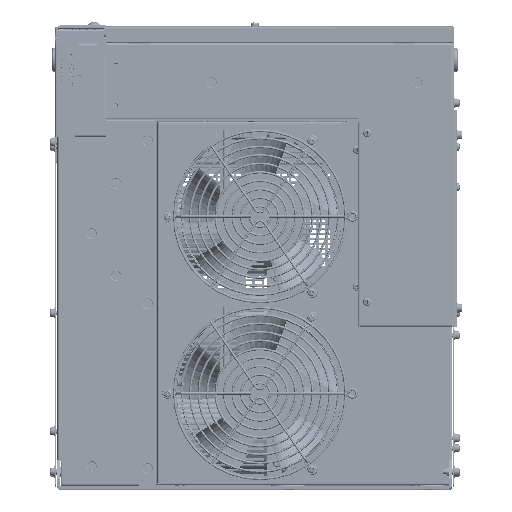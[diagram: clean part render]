
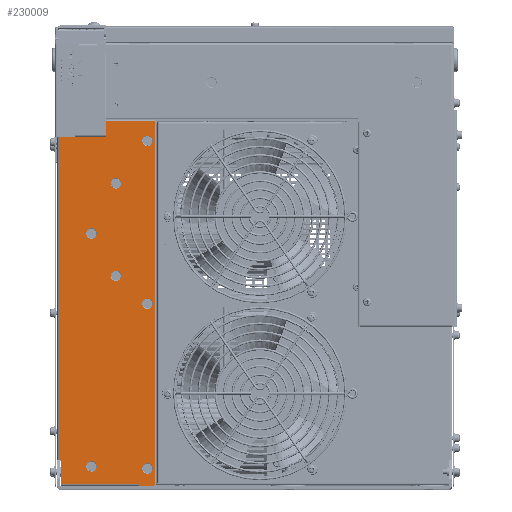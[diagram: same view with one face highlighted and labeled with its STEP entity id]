
A CAD part, top view. The second image highlights one B-rep face of the part: STEP entity #230009.
In plain terms, the highlighted planar face has unit normal (0, 0, 1).
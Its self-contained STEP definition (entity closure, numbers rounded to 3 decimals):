
#228107=CARTESIAN_POINT('',(-94.,304.8,339.5));
#228108=DIRECTION('',(0.,0.,-1.));
#228109=DIRECTION('',(-1.,0.,0.));
#228110=AXIS2_PLACEMENT_3D('',#228107,#228108,#228109);
#228115=CARTESIAN_POINT('',(-94.,304.8,339.5));
#228116=DIRECTION('',(0.,0.,-1.));
#228117=DIRECTION('',(1.,0.,0.));
#228118=AXIS2_PLACEMENT_3D('',#228115,#228116,#228117);
#228123=CARTESIAN_POINT('',(-121.6,186.5,339.5));
#228124=DIRECTION('',(0.,0.,-1.));
#228125=DIRECTION('',(-1.,0.,0.));
#228126=AXIS2_PLACEMENT_3D('',#228123,#228124,#228125);
#228131=CARTESIAN_POINT('',(-121.6,186.5,339.5));
#228132=DIRECTION('',(0.,0.,-1.));
#228133=DIRECTION('',(1.,0.,0.));
#228134=AXIS2_PLACEMENT_3D('',#228131,#228132,#228133);
#228139=CARTESIAN_POINT('',(-94.,17.5,339.5));
#228140=DIRECTION('',(0.,0.,-1.));
#228141=DIRECTION('',(-1.,0.,0.));
#228142=AXIS2_PLACEMENT_3D('',#228139,#228140,#228141);
#228147=CARTESIAN_POINT('',(-94.,17.5,339.5));
#228148=DIRECTION('',(0.,0.,-1.));
#228149=DIRECTION('',(1.,0.,0.));
#228150=AXIS2_PLACEMENT_3D('',#228147,#228148,#228149);
#228155=CARTESIAN_POINT('',(-94.,162.,339.5));
#228156=DIRECTION('',(0.,0.,-1.));
#228157=DIRECTION('',(-1.,0.,0.));
#228158=AXIS2_PLACEMENT_3D('',#228155,#228156,#228157);
#228163=CARTESIAN_POINT('',(-94.,162.,339.5));
#228164=DIRECTION('',(0.,0.,-1.));
#228165=DIRECTION('',(1.,0.,0.));
#228166=AXIS2_PLACEMENT_3D('',#228163,#228164,#228165);
#228171=CARTESIAN_POINT('',(-121.6,267.5,339.5));
#228172=DIRECTION('',(0.,0.,-1.));
#228173=DIRECTION('',(-1.,0.,0.));
#228174=AXIS2_PLACEMENT_3D('',#228171,#228172,#228173);
#228179=CARTESIAN_POINT('',(-121.6,267.5,339.5));
#228180=DIRECTION('',(0.,0.,-1.));
#228181=DIRECTION('',(1.,0.,0.));
#228182=AXIS2_PLACEMENT_3D('',#228179,#228180,#228181);
#228187=CARTESIAN_POINT('',(-143.,223.5,339.5));
#228188=DIRECTION('',(0.,0.,-1.));
#228189=DIRECTION('',(-1.,0.,0.));
#228190=AXIS2_PLACEMENT_3D('',#228187,#228188,#228189);
#228195=CARTESIAN_POINT('',(-143.,223.5,339.5));
#228196=DIRECTION('',(0.,0.,-1.));
#228197=DIRECTION('',(1.,0.,0.));
#228198=AXIS2_PLACEMENT_3D('',#228195,#228196,#228197);
#228203=CARTESIAN_POINT('',(-143.,19.5,339.5));
#228204=DIRECTION('',(0.,0.,-1.));
#228205=DIRECTION('',(-1.,0.,0.));
#228206=AXIS2_PLACEMENT_3D('',#228203,#228204,#228205);
#228211=CARTESIAN_POINT('',(-143.,19.5,339.5));
#228212=DIRECTION('',(0.,0.,-1.));
#228213=DIRECTION('',(1.,0.,0.));
#228214=AXIS2_PLACEMENT_3D('',#228211,#228212,#228213);
#228219=CARTESIAN_POINT('',(-89.5,4.5,339.5));
#228220=DIRECTION('',(0.,0.,1.));
#228221=DIRECTION('',(0.,-1.,0.));
#228222=AXIS2_PLACEMENT_3D('',#228219,#228220,#228221);
#228227=DIRECTION('',(1.,0.,0.));
#228228=VECTOR('',#228227,11.7);
#228229=CARTESIAN_POINT('',(-101.2,2.5,339.5));
#228230=LINE('',#228229,#228228);
#228234=DIRECTION('',(0.,-1.,0.));
#228235=VECTOR('',#228234,1.7);
#228236=CARTESIAN_POINT('',(-101.2,4.2,339.5));
#228237=LINE('',#228236,#228235);
#228241=DIRECTION('',(-1.,0.,0.));
#228242=VECTOR('',#228241,1.7);
#228243=CARTESIAN_POINT('',(-168.5,23.2,339.5));
#228244=LINE('',#228243,#228242);
#228248=DIRECTION('',(0.,1.,0.));
#228249=VECTOR('',#228248,2.);
#228250=CARTESIAN_POINT('',(-170.2,23.2,339.5));
#228251=LINE('',#228250,#228249);
#228255=DIRECTION('',(1.,0.,0.));
#228256=VECTOR('',#228255,1.1);
#228257=CARTESIAN_POINT('',(-171.3,25.2,339.5));
#228258=LINE('',#228257,#228256);
#228262=DIRECTION('',(1.,0.,0.));
#228263=VECTOR('',#228262,41.313);
#228264=CARTESIAN_POINT('',(-171.3,308.3,339.5));
#228265=LINE('',#228264,#228263);
#228269=DIRECTION('',(0.,-1.,0.));
#228270=VECTOR('',#228269,13.5);
#228271=CARTESIAN_POINT('',(-129.987,321.8,339.5));
#228272=LINE('',#228271,#228270);
#228276=DIRECTION('',(0.,1.,0.));
#228277=VECTOR('',#228276,317.3);
#228278=CARTESIAN_POINT('',(-87.5,4.5,339.5));
#228279=LINE('',#228278,#228277);
#228612=DIRECTION('',(-1.,0.,0.));
#228613=VECTOR('',#228612,67.3);
#228614=CARTESIAN_POINT('',(-101.2,4.2,339.5));
#228615=LINE('',#228614,#228613);
#228876=DIRECTION('',(0.,1.,0.));
#228877=VECTOR('',#228876,19.);
#228878=CARTESIAN_POINT('',(-168.5,4.2,339.5));
#228879=LINE('',#228878,#228877);
#229094=DIRECTION('',(0.,1.,0.));
#229095=VECTOR('',#229094,283.1);
#229096=CARTESIAN_POINT('',(-171.3,25.2,339.5));
#229097=LINE('',#229096,#229095);
#229440=DIRECTION('',(1.,0.,0.));
#229441=VECTOR('',#229440,42.487);
#229442=CARTESIAN_POINT('',(-129.987,321.8,339.5));
#229443=LINE('',#229442,#229441);
#229562=CARTESIAN_POINT('',(-170.2,25.2,339.5));
#229564=VERTEX_POINT('',#229562);
#229569=CARTESIAN_POINT('',(-101.2,4.2,339.5));
#229570=CARTESIAN_POINT('',(-101.2,2.5,339.5));
#229571=VERTEX_POINT('',#229569);
#229572=VERTEX_POINT('',#229570);
#229590=CARTESIAN_POINT('',(-87.5,321.8,339.5));
#229592=VERTEX_POINT('',#229590);
#229598=CARTESIAN_POINT('',(-171.3,25.2,339.5));
#229600=VERTEX_POINT('',#229598);
#229607=CARTESIAN_POINT('',(-168.5,4.2,339.5));
#229608=VERTEX_POINT('',#229607);
#229613=CARTESIAN_POINT('',(-168.5,23.2,339.5));
#229614=CARTESIAN_POINT('',(-170.2,23.2,339.5));
#229615=VERTEX_POINT('',#229613);
#229616=VERTEX_POINT('',#229614);
#229705=CARTESIAN_POINT('',(-98.6,304.8,339.5));
#229706=CARTESIAN_POINT('',(-89.4,304.8,339.5));
#229707=VERTEX_POINT('',#229705);
#229708=VERTEX_POINT('',#229706);
#229717=CARTESIAN_POINT('',(-126.2,186.5,339.5));
#229718=CARTESIAN_POINT('',(-117.,186.5,339.5));
#229719=VERTEX_POINT('',#229717);
#229720=VERTEX_POINT('',#229718);
#229729=CARTESIAN_POINT('',(-98.6,17.5,339.5));
#229730=CARTESIAN_POINT('',(-89.4,17.5,339.5));
#229731=VERTEX_POINT('',#229729);
#229732=VERTEX_POINT('',#229730);
#229741=CARTESIAN_POINT('',(-98.6,162.,339.5));
#229742=CARTESIAN_POINT('',(-89.4,162.,339.5));
#229743=VERTEX_POINT('',#229741);
#229744=VERTEX_POINT('',#229742);
#229753=CARTESIAN_POINT('',(-126.2,267.5,339.5));
#229754=CARTESIAN_POINT('',(-117.,267.5,339.5));
#229755=VERTEX_POINT('',#229753);
#229756=VERTEX_POINT('',#229754);
#229765=CARTESIAN_POINT('',(-147.6,223.5,339.5));
#229766=CARTESIAN_POINT('',(-138.4,223.5,339.5));
#229767=VERTEX_POINT('',#229765);
#229768=VERTEX_POINT('',#229766);
#229777=CARTESIAN_POINT('',(-147.6,19.5,339.5));
#229778=CARTESIAN_POINT('',(-138.4,19.5,339.5));
#229779=VERTEX_POINT('',#229777);
#229780=VERTEX_POINT('',#229778);
#229795=CARTESIAN_POINT('',(-171.3,308.3,339.5));
#229796=CARTESIAN_POINT('',(-129.987,308.3,339.5));
#229797=VERTEX_POINT('',#229795);
#229798=VERTEX_POINT('',#229796);
#229799=CARTESIAN_POINT('',(-129.987,321.8,339.5));
#229800=VERTEX_POINT('',#229799);
#229825=CARTESIAN_POINT('',(-89.5,2.5,339.5));
#229826=VERTEX_POINT('',#229825);
#229827=CARTESIAN_POINT('',(-87.5,4.5,339.5));
#229828=VERTEX_POINT('',#229827);
#229935=CARTESIAN_POINT('',(0.,0.,339.5));
#229936=DIRECTION('',(0.,0.,1.));
#229937=DIRECTION('',(1.,0.,0.));
#229938=AXIS2_PLACEMENT_3D('',#229935,#229936,#229937);
#229939=PLANE('',#229938);
#229941=ORIENTED_EDGE('',*,*,#229940,.F.);
#229943=ORIENTED_EDGE('',*,*,#229942,.F.);
#229945=ORIENTED_EDGE('',*,*,#229944,.F.);
#229947=ORIENTED_EDGE('',*,*,#229946,.T.);
#229949=ORIENTED_EDGE('',*,*,#229948,.T.);
#229951=ORIENTED_EDGE('',*,*,#229950,.T.);
#229953=ORIENTED_EDGE('',*,*,#229952,.T.);
#229955=ORIENTED_EDGE('',*,*,#229954,.F.);
#229957=ORIENTED_EDGE('',*,*,#229956,.T.);
#229959=ORIENTED_EDGE('',*,*,#229958,.T.);
#229961=ORIENTED_EDGE('',*,*,#229960,.F.);
#229963=ORIENTED_EDGE('',*,*,#229962,.T.);
#229965=ORIENTED_EDGE('',*,*,#229964,.F.);
#229966=EDGE_LOOP('',(#229941,#229943,#229945,#229947,#229949,#229951,#229953,
#229955,#229957,#229959,#229961,#229963,#229965));
#229967=FACE_OUTER_BOUND('',#229966,.F.);
#229969=ORIENTED_EDGE('',*,*,#229968,.F.);
#229971=ORIENTED_EDGE('',*,*,#229970,.F.);
#229972=EDGE_LOOP('',(#229969,#229971));
#229973=FACE_BOUND('',#229972,.F.);
#229975=ORIENTED_EDGE('',*,*,#229974,.F.);
#229977=ORIENTED_EDGE('',*,*,#229976,.F.);
#229978=EDGE_LOOP('',(#229975,#229977));
#229979=FACE_BOUND('',#229978,.F.);
#229981=ORIENTED_EDGE('',*,*,#229980,.F.);
#229983=ORIENTED_EDGE('',*,*,#229982,.F.);
#229984=EDGE_LOOP('',(#229981,#229983));
#229985=FACE_BOUND('',#229984,.F.);
#229987=ORIENTED_EDGE('',*,*,#229986,.F.);
#229989=ORIENTED_EDGE('',*,*,#229988,.F.);
#229990=EDGE_LOOP('',(#229987,#229989));
#229991=FACE_BOUND('',#229990,.F.);
#229993=ORIENTED_EDGE('',*,*,#229992,.F.);
#229995=ORIENTED_EDGE('',*,*,#229994,.F.);
#229996=EDGE_LOOP('',(#229993,#229995));
#229997=FACE_BOUND('',#229996,.F.);
#229999=ORIENTED_EDGE('',*,*,#229998,.F.);
#230001=ORIENTED_EDGE('',*,*,#230000,.F.);
#230002=EDGE_LOOP('',(#229999,#230001));
#230003=FACE_BOUND('',#230002,.F.);
#230005=ORIENTED_EDGE('',*,*,#230004,.F.);
#230006=ORIENTED_EDGE('',*,*,#229925,.F.);
#230007=EDGE_LOOP('',(#230005,#230006));
#230008=FACE_BOUND('',#230007,.F.);
#228111=CIRCLE('',#228110,4.6);
#228119=CIRCLE('',#228118,4.6);
#228127=CIRCLE('',#228126,4.6);
#228135=CIRCLE('',#228134,4.6);
#228143=CIRCLE('',#228142,4.6);
#228151=CIRCLE('',#228150,4.6);
#228159=CIRCLE('',#228158,4.6);
#228167=CIRCLE('',#228166,4.6);
#228175=CIRCLE('',#228174,4.6);
#228183=CIRCLE('',#228182,4.6);
#228191=CIRCLE('',#228190,4.6);
#228199=CIRCLE('',#228198,4.6);
#228207=CIRCLE('',#228206,4.6);
#228215=CIRCLE('',#228214,4.6);
#228223=CIRCLE('',#228222,2.);
#229925=EDGE_CURVE('',#229708,#229707,#228119,.T.);
#229940=EDGE_CURVE('',#229826,#229828,#228223,.T.);
#229942=EDGE_CURVE('',#229572,#229826,#228230,.T.);
#229944=EDGE_CURVE('',#229571,#229572,#228237,.T.);
#229946=EDGE_CURVE('',#229571,#229608,#228615,.T.);
#229948=EDGE_CURVE('',#229608,#229615,#228879,.T.);
#229950=EDGE_CURVE('',#229615,#229616,#228244,.T.);
#229952=EDGE_CURVE('',#229616,#229564,#228251,.T.);
#229954=EDGE_CURVE('',#229600,#229564,#228258,.T.);
#229956=EDGE_CURVE('',#229600,#229797,#229097,.T.);
#229958=EDGE_CURVE('',#229797,#229798,#228265,.T.);
#229960=EDGE_CURVE('',#229800,#229798,#228272,.T.);
#229962=EDGE_CURVE('',#229800,#229592,#229443,.T.);
#229964=EDGE_CURVE('',#229828,#229592,#228279,.T.);
#229968=EDGE_CURVE('',#229719,#229720,#228127,.T.);
#229970=EDGE_CURVE('',#229720,#229719,#228135,.T.);
#229974=EDGE_CURVE('',#229731,#229732,#228143,.T.);
#229976=EDGE_CURVE('',#229732,#229731,#228151,.T.);
#229980=EDGE_CURVE('',#229743,#229744,#228159,.T.);
#229982=EDGE_CURVE('',#229744,#229743,#228167,.T.);
#229986=EDGE_CURVE('',#229755,#229756,#228175,.T.);
#229988=EDGE_CURVE('',#229756,#229755,#228183,.T.);
#229992=EDGE_CURVE('',#229767,#229768,#228191,.T.);
#229994=EDGE_CURVE('',#229768,#229767,#228199,.T.);
#229998=EDGE_CURVE('',#229779,#229780,#228207,.T.);
#230000=EDGE_CURVE('',#229780,#229779,#228215,.T.);
#230004=EDGE_CURVE('',#229707,#229708,#228111,.T.);
#230009=ADVANCED_FACE('',(#229967,#229973,#229979,#229985,#229991,#229997,
#230003,#230008),#229939,.T.);
